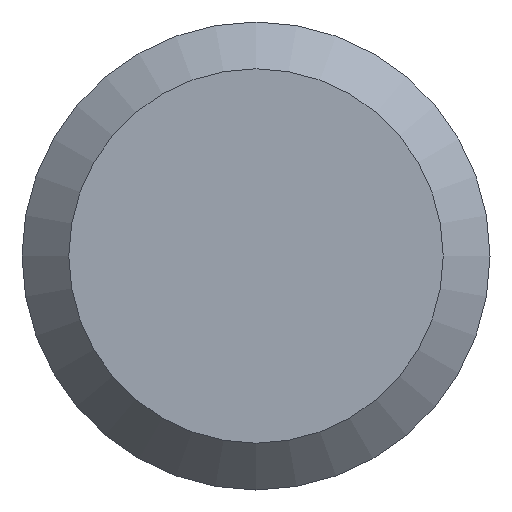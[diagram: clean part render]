
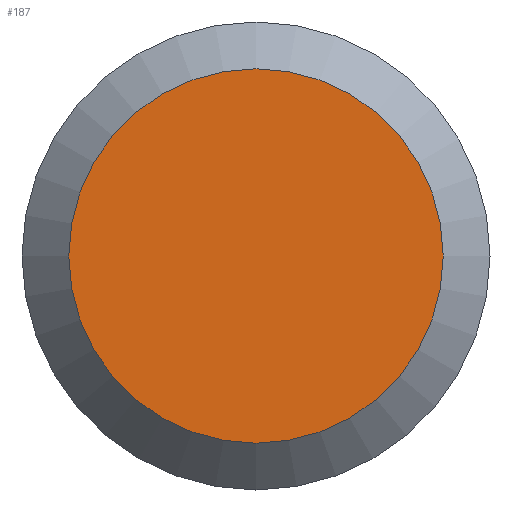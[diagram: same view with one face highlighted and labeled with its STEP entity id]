
A CAD part, left-side view. The second image highlights one B-rep face of the part: STEP entity #187.
In plain terms, the highlighted planar face has unit normal (-1, 0, 0).
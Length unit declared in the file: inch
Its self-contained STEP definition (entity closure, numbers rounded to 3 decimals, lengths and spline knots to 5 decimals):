
#38 = ORIENTED_EDGE ( 'NONE', *, *, #202, .T. ) ;
#73 = DIRECTION ( 'NONE',  ( 1., 0., 0. ) ) ;
#87 = CARTESIAN_POINT ( 'NONE',  ( 0., 0., -0.0168 ) ) ;
#89 = PLANE ( 'NONE',  #115 ) ;
#101 = FACE_OUTER_BOUND ( 'NONE', #219, .T. ) ;
#106 = CIRCLE ( 'NONE', #231, 0.0168 ) ;
#111 = DIRECTION ( 'NONE',  ( -1., 0., 0. ) ) ;
#114 = CARTESIAN_POINT ( 'NONE',  ( 0., 0.021, 0. ) ) ;
#115 = AXIS2_PLACEMENT_3D ( 'NONE', #114, #73, #196 ) ;
#128 = VERTEX_POINT ( 'NONE', #87 ) ;
#187 = ADVANCED_FACE ( 'NONE', ( #101 ), #89, .F. ) ;
#196 = DIRECTION ( 'NONE',  ( 0., 0., -1. ) ) ;
#202 = EDGE_CURVE ( 'NONE', #128, #128, #106, .T. ) ;
#219 = EDGE_LOOP ( 'NONE', ( #38 ) ) ;
#228 = DIRECTION ( 'NONE',  ( 0., 0., -1. ) ) ;
#231 = AXIS2_PLACEMENT_3D ( 'NONE', #242, #111, #228 ) ;
#242 = CARTESIAN_POINT ( 'NONE',  ( 0., 0., 0. ) ) ;
